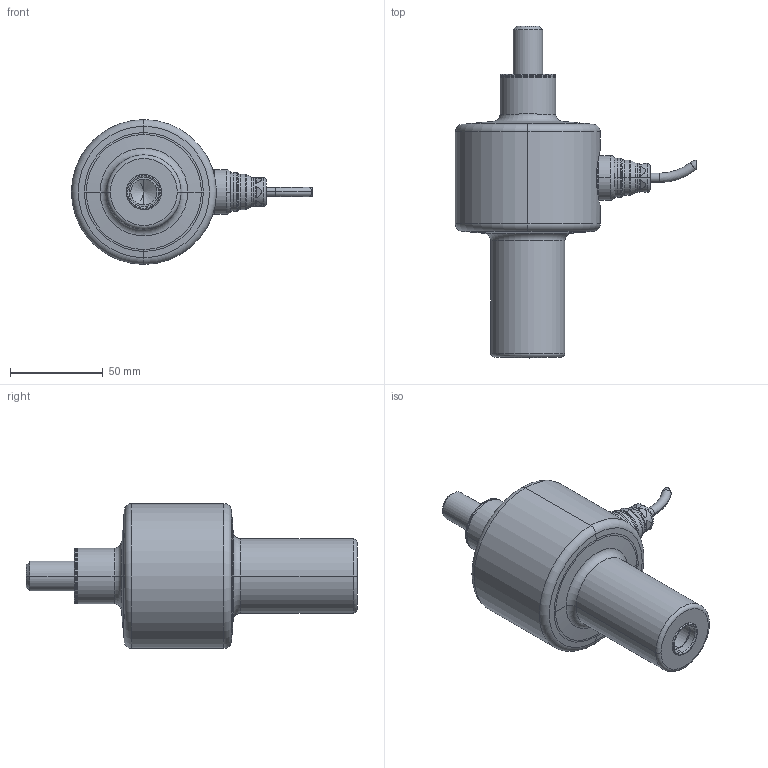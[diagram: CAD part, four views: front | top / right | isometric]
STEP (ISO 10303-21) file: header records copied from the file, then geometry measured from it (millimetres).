
FILE_DESCRIPTION((''),'1');
FILE_NAME('LFLA_3A_M16_5000_kg.step','2024-07-02T08:32:00',(''),(''),'','','');
FILE_SCHEMA(('AUTOMOTIVE_DESIGN { 1 0 10303 214 1 1 1 1 }'));
Length unit declared in the file: metre
Products named in the file (10): LFLA part 01; LFLA body 01; LFLA cable 01; LFLA cable gland 01; LFLA cable gland 02; LFLA part 03; LFLA connector 01; LFLA O-ring 01; LFLA O-ring 02; LFLA 3A_M16_5000_kg
Assembly tree (9 placements, depth 3):
  LFLA 3A_M16_5000_kg
    LFLA part 01
      LFLA body 01
      LFLA cable 01
      LFLA cable gland 01
      LFLA cable gland 02
      LFLA part 03
      LFLA connector 01
      LFLA O-ring 01
      LFLA O-ring 02
Bounding box: 129.85 x 178.76 x 78 mm (x, y, z)
Volume: 394833.9 mm3; surface area: 69002.6 mm2
Topology: 8 solids, 8 shells, 176 faces, 346 edges, 201 vertices
Faces by surface type: cylinder 72, torus 54, plane 32, cone 18
Entity records: 5184 total; most frequent: CARTESIAN_POINT 1095, DIRECTION 952, ORIENTED_EDGE 688, AXIS2_PLACEMENT_3D 431, EDGE_CURVE 344, CIRCLE 238, EDGE_LOOP 205, VERTEX_POINT 201
